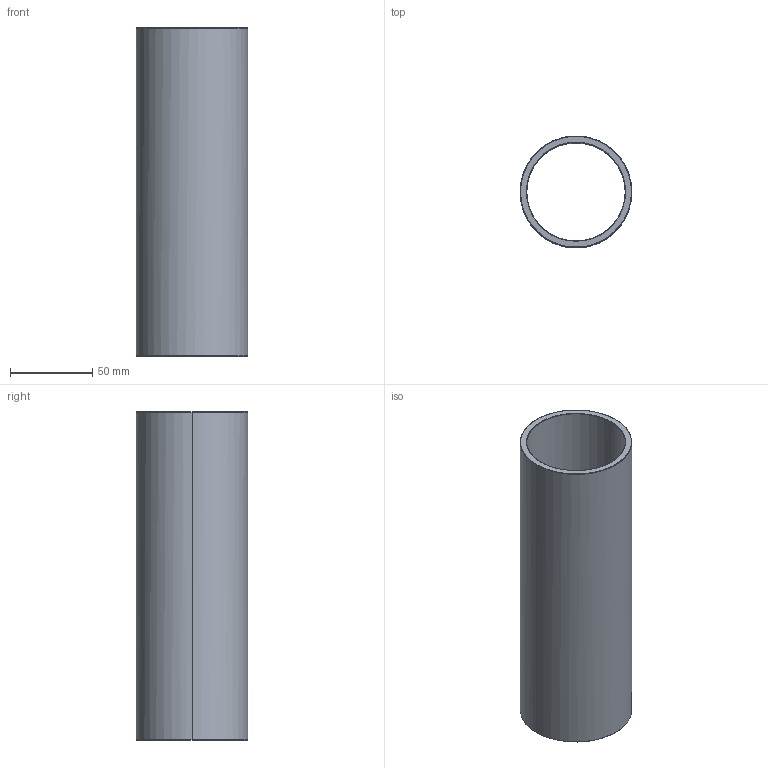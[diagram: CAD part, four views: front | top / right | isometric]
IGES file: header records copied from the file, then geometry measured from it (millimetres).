
Start section: Write IGES format                                    datakit 2008 (c)
Global section: file name: Unknown; native system: DATAKIT Converter; preprocessor: Unknown; author: Unknown; organization: Unknown; date: 950613.180003; units: millimetre
Bounding box: 68 x 67.88 x 200 mm (x, y, z)
Surface area: 81939 mm2 (no closed solid volume)
Topology: 0 solids, 0 shells, 14 faces, 56 edges, 56 vertices
Faces by surface type: revolution 12, bspline 2
